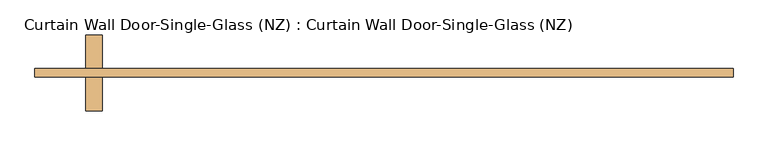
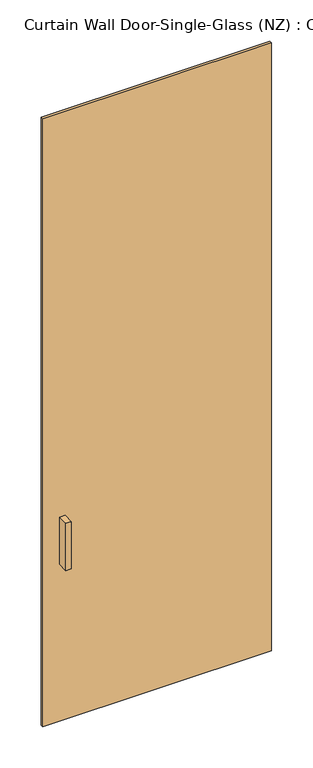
"""IFC4 building model written with IfcOpenShell, lengths in millimetres: door geometry, Curtain Wall Door-Single-Glass (NZ) : Curtain Wall Door-Single-Glass (NZ)."""

from ifc_helpers import new_model, si_unit, frame, origin, origin_with_axes, place, context, project, spatial, polyline, outline, extrude, source, transform, mapped, element, save


def curtain_wall_door_single_glass_nz_curtain_wall_door_single_b61deed2(model_context):
    return source(origin(), model_context, "Body", "SweptSolid", [
        extrude(outline(polyline([(525.0, -51.0), (-525.0, -51.0), (-525.0, -38.3), (525.0, -38.3), (525.0, -51.0)])), origin_with_axes(), (0.0, 0.0, 1.0), 2950.0),
        extrude(outline(polyline([(-448.8, -101.8), (-448.8, -51.0), (-423.4, -51.0), (-423.4, -101.8), (-448.8, -101.8)])), frame((0.0, 0.0, 762.0), z_axis=(0.0, 0.0, 1.0), x_axis=(1.0, 0.0, 0.0)), (0.0, 0.0, 1.0), 228.6),
        extrude(outline(polyline([(-423.4, 12.5), (-423.4, -38.3), (-448.8, -38.3), (-448.8, 12.5), (-423.4, 12.5)])), frame((0.0, 0.0, 762.0), z_axis=(0.0, 0.0, 1.0), x_axis=(1.0, 0.0, 0.0)), (0.0, 0.0, 1.0), 228.6),
    ])


if __name__ == "__main__":
    model = new_model("IFC4")
    model_context = context("Model", 3, world=origin())
    ifc_project = project(units=[si_unit("LENGTHUNIT", "METRE", prefix="MILLI")], contexts=[model_context])
    site = spatial("IfcSite", under=ifc_project)
    building = spatial("IfcBuilding", under=site)
    placement = place(None, origin())
    curtain_wall_door_single_glass_nz_curtain_wall_door_single_shape = curtain_wall_door_single_glass_nz_curtain_wall_door_single_b61deed2(model_context)
    element("IfcDoor", 1, ObjectType="Curtain Wall Door-Single-Glass (NZ) : Curtain Wall Door-Single-Glass (NZ)", at=placement, inside=building, context=model_context, shape_type="MappedRepresentation", body=[
        mapped(curtain_wall_door_single_glass_nz_curtain_wall_door_single_shape, transform((0.0, 0.0, 0.0), x_axis=(1.0, 0.0, 0.0), y_axis=(0.0, 1.0, 0.0), z_axis=(0.0, 0.0, 1.0))),
    ])
    save(model, "model.ifc")
